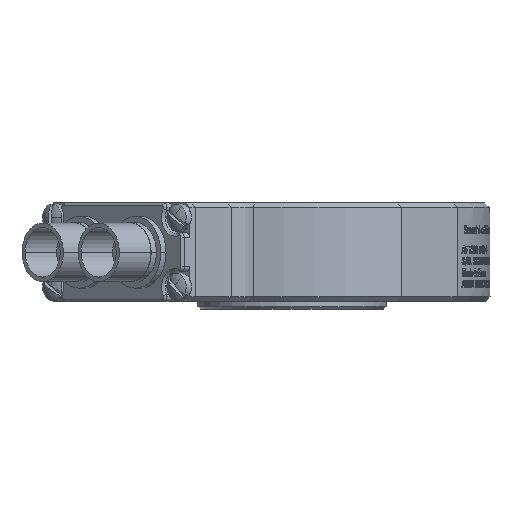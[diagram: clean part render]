
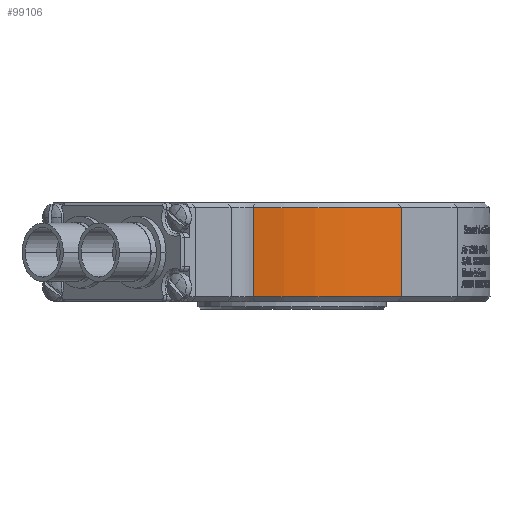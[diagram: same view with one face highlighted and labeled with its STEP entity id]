
A CAD part, front view. The second image highlights one B-rep face of the part: STEP entity #99106.
In plain terms, the highlighted cylindrical face has radius 40 mm (diameter 80 mm), a partial arc.
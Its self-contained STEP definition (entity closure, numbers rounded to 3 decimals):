
#4870 = AXIS2_PLACEMENT_3D ( 'NONE', #140781, #68173, #102954 ) ;
#5957 = DIRECTION ( 'NONE',  ( -1., 0., 0. ) ) ;
#11423 = EDGE_CURVE ( 'NONE', #108713, #120220, #71638, .T. ) ;
#16545 = LINE ( 'NONE', #88355, #80230 ) ;
#17130 = VERTEX_POINT ( 'NONE', #84859 ) ;
#17711 = FACE_OUTER_BOUND ( 'NONE', #151525, .T. ) ;
#21254 = DIRECTION ( 'NONE',  ( 1., 0., 0. ) ) ;
#22766 = LINE ( 'NONE', #142752, #26400 ) ;
#26400 = VECTOR ( 'NONE', #34623, 1000. ) ;
#34623 = DIRECTION ( 'NONE',  ( 0., 0., -1. ) ) ;
#35806 = EDGE_CURVE ( 'NONE', #108713, #75786, #22766, .T. ) ;
#36765 = AXIS2_PLACEMENT_3D ( 'NONE', #91150, #112515, #5957 ) ;
#40764 = ORIENTED_EDGE ( 'NONE', *, *, #70756, .T. ) ;
#42166 = CYLINDRICAL_SURFACE ( 'NONE', #4870, 40. ) ;
#48875 = AXIS2_PLACEMENT_3D ( 'NONE', #69381, #153070, #21254 ) ;
#51462 = CARTESIAN_POINT ( 'NONE',  ( -7.804, -39.231, 11.25 ) ) ;
#68173 = DIRECTION ( 'NONE',  ( 0., 0., -1. ) ) ;
#68832 = CARTESIAN_POINT ( 'NONE',  ( 22.09, -33.347, 11.25 ) ) ;
#69381 = CARTESIAN_POINT ( 'NONE',  ( 0., 0., 11.25 ) ) ;
#70756 = EDGE_CURVE ( 'NONE', #17130, #75786, #82106, .T. ) ;
#71638 = CIRCLE ( 'NONE', #48875, 40. ) ;
#75786 = VERTEX_POINT ( 'NONE', #78803 ) ;
#78803 = CARTESIAN_POINT ( 'NONE',  ( 22.09, -33.347, -6.75 ) ) ;
#80230 = VECTOR ( 'NONE', #139599, 1000. ) ;
#82106 = CIRCLE ( 'NONE', #36765, 40. ) ;
#84859 = CARTESIAN_POINT ( 'NONE',  ( -7.804, -39.231, -6.75 ) ) ;
#86409 = ORIENTED_EDGE ( 'NONE', *, *, #96586, .T. ) ;
#88355 = CARTESIAN_POINT ( 'NONE',  ( -7.804, -39.231, 3. ) ) ;
#91150 = CARTESIAN_POINT ( 'NONE',  ( 0., 0., -6.75 ) ) ;
#96586 = EDGE_CURVE ( 'NONE', #120220, #17130, #16545, .T. ) ;
#99106 = ADVANCED_FACE ( 'NONE', ( #17711 ), #42166, .T. ) ;
#102954 = DIRECTION ( 'NONE',  ( -1., 0., 0. ) ) ;
#108713 = VERTEX_POINT ( 'NONE', #68832 ) ;
#112515 = DIRECTION ( 'NONE',  ( 0., 0., 1. ) ) ;
#116099 = ORIENTED_EDGE ( 'NONE', *, *, #11423, .T. ) ;
#120220 = VERTEX_POINT ( 'NONE', #51462 ) ;
#133430 = ORIENTED_EDGE ( 'NONE', *, *, #35806, .F. ) ;
#139599 = DIRECTION ( 'NONE',  ( 0., 0., -1. ) ) ;
#140781 = CARTESIAN_POINT ( 'NONE',  ( 0., 0., 3. ) ) ;
#142752 = CARTESIAN_POINT ( 'NONE',  ( 22.09, -33.347, 28.17 ) ) ;
#151525 = EDGE_LOOP ( 'NONE', ( #133430, #116099, #86409, #40764 ) ) ;
#153070 = DIRECTION ( 'NONE',  ( 0., 0., -1. ) ) ;
